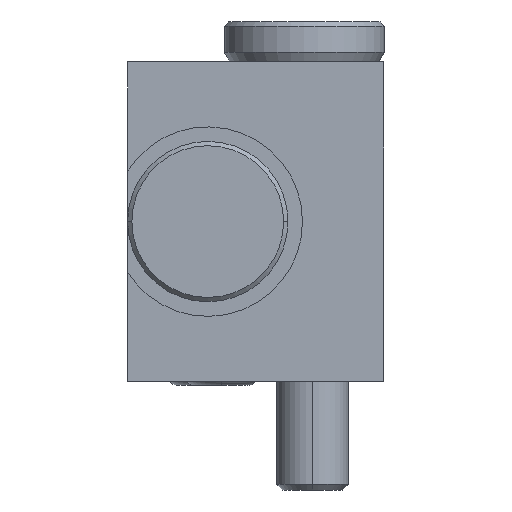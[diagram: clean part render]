
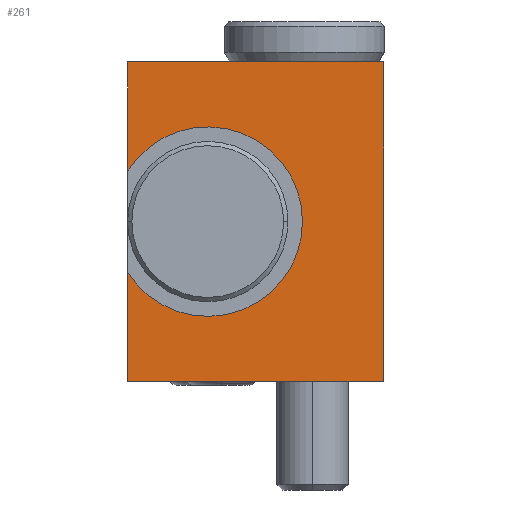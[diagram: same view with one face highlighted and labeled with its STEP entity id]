
A CAD part, left-side view. The second image highlights one B-rep face of the part: STEP entity #261.
In plain terms, the highlighted planar face has unit normal (-1, 0, 0).
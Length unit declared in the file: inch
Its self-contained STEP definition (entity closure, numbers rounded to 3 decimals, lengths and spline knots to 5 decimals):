
#71=DIRECTION('',(0.,0.,-1.));
#72=VECTOR('',#71,0.38269);
#73=CARTESIAN_POINT('',(-1.5005,0.44925,0.55925));
#74=LINE('',#73,#72);
#75=DIRECTION('',(0.,1.,0.));
#76=VECTOR('',#75,0.8985);
#77=CARTESIAN_POINT('',(-1.5005,-0.44925,0.55925));
#78=LINE('',#77,#76);
#79=DIRECTION('',(0.,0.,1.));
#80=VECTOR('',#79,1.1185);
#81=CARTESIAN_POINT('',(-1.5005,-0.44925,-0.55925));
#82=LINE('',#81,#80);
#83=DIRECTION('',(0.,-1.,0.));
#84=VECTOR('',#83,0.8985);
#85=CARTESIAN_POINT('',(-1.5005,0.44925,-0.55925));
#86=LINE('',#85,#84);
#87=DIRECTION('',(0.,0.,-1.));
#88=VECTOR('',#87,0.38219);
#89=CARTESIAN_POINT('',(-1.5005,0.44925,-0.17706));
#90=LINE('',#89,#88);
#96=CARTESIAN_POINT('',(-1.5005,0.16825,-0.00025));
#97=DIRECTION('',(1.,0.,0.));
#98=DIRECTION('',(0.,0.846,0.533));
#99=AXIS2_PLACEMENT_3D('',#96,#97,#98);
#109=CARTESIAN_POINT('',(-1.5005,-0.44925,0.55925));
#110=CARTESIAN_POINT('',(-1.5005,0.44925,0.55925));
#111=VERTEX_POINT('',#109);
#112=VERTEX_POINT('',#110);
#113=CARTESIAN_POINT('',(-1.5005,0.44925,-0.55925));
#114=CARTESIAN_POINT('',(-1.5005,-0.44925,-0.55925));
#115=VERTEX_POINT('',#113);
#116=VERTEX_POINT('',#114);
#121=CARTESIAN_POINT('',(-1.5005,0.44925,-0.17706));
#122=VERTEX_POINT('',#121);
#123=CARTESIAN_POINT('',(-1.5005,0.44925,0.17656));
#124=VERTEX_POINT('',#123);
#247=CARTESIAN_POINT('',(-1.5005,0.,0.));
#248=DIRECTION('',(-1.,0.,0.));
#249=DIRECTION('',(0.,0.,-1.));
#250=AXIS2_PLACEMENT_3D('',#247,#248,#249);
#251=PLANE('',#250);
#253=ORIENTED_EDGE('',*,*,#252,.F.);
#254=ORIENTED_EDGE('',*,*,#179,.F.);
#255=ORIENTED_EDGE('',*,*,#214,.F.);
#256=ORIENTED_EDGE('',*,*,#228,.F.);
#257=ORIENTED_EDGE('',*,*,#241,.F.);
#258=ORIENTED_EDGE('',*,*,#187,.F.);
#259=EDGE_LOOP('',(#253,#254,#255,#256,#257,#258));
#260=FACE_OUTER_BOUND('',#259,.F.);
#261=ADVANCED_FACE('',(#260),#251,.T.);
#100=CIRCLE('',#99,0.332);
#179=EDGE_CURVE('',#112,#124,#74,.T.);
#187=EDGE_CURVE('',#122,#115,#90,.T.);
#214=EDGE_CURVE('',#111,#112,#78,.T.);
#228=EDGE_CURVE('',#116,#111,#82,.T.);
#241=EDGE_CURVE('',#115,#116,#86,.T.);
#252=EDGE_CURVE('',#124,#122,#100,.T.);
